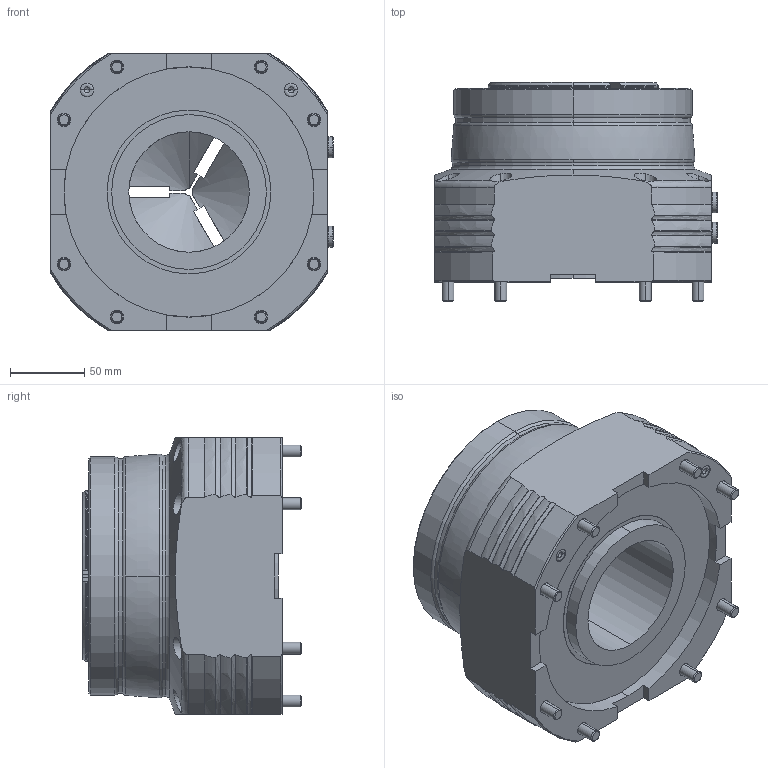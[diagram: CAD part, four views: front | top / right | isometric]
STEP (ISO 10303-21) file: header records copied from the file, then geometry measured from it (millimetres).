
FILE_DESCRIPTION (( 'STEP AP203' ), '1' );
FILE_NAME ('HYDROK_RD_Gr80_1121_0005.STEP', '2012-12-19T09:26:33', ( '' ), ( '' ), 'SwSTEP 2.0', 'SolidWorks 2010', '' );
FILE_SCHEMA (( 'CONFIG_CONTROL_DESIGN' ));
Length unit declared in the file: millimetre
Products named in the file (1): HYDROK_RD_Gr80_1121_0005
Bounding box: 190 x 147 x 186 mm (x, y, z)
Volume: 2803690.4 mm3; surface area: 266529.2 mm2
Topology: 19 solids, 19 shells, 663 faces, 1663 edges, 1032 vertices
Faces by surface type: plane 239, cylinder 171, torus 118, cone 110, bspline 25
Entity records: 22408 total; most frequent: CARTESIAN_POINT 6767, DIRECTION 3300, ORIENTED_EDGE 3238, EDGE_CURVE 1619, AXIS2_PLACEMENT_3D 1331, VERTEX_POINT 1032, EDGE_LOOP 727, CIRCLE 692
